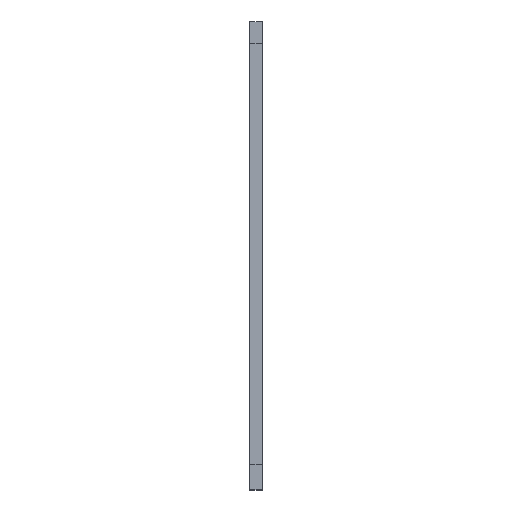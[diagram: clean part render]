
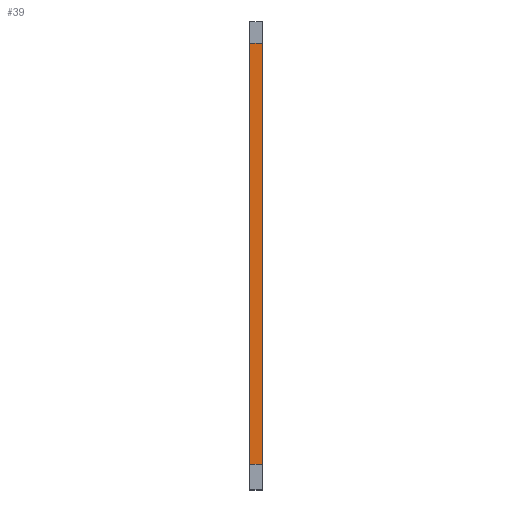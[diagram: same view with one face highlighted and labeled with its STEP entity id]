
A CAD part, left-side view. The second image highlights one B-rep face of the part: STEP entity #39.
In plain terms, the highlighted planar face has unit normal (-1, 0, 0).
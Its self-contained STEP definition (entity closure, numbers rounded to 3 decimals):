
#39=ADVANCED_FACE('',(#75),#1361,.T.);
#75=FACE_OUTER_BOUND('',#111,.T.);
#111=EDGE_LOOP('',(#176,#177,#178,#179));
#176=ORIENTED_EDGE('',*,*,#965,.T.);
#177=ORIENTED_EDGE('',*,*,#946,.F.);
#178=ORIENTED_EDGE('',*,*,#966,.T.);
#179=ORIENTED_EDGE('',*,*,#963,.F.);
#436=PCURVE('',#1354,#640);
#458=PCURVE('',#1360,#662);
#461=PCURVE('',#1361,#665);
#462=PCURVE('',#1361,#666);
#463=PCURVE('',#1361,#667);
#464=PCURVE('',#1361,#668);
#557=PCURVE('',#1372,#761);
#598=PCURVE('',#1373,#802);
#640=DEFINITIONAL_REPRESENTATION('',(#1052),#2445);
#662=DEFINITIONAL_REPRESENTATION('',(#1091),#2445);
#665=DEFINITIONAL_REPRESENTATION('',(#1096),#2445);
#666=DEFINITIONAL_REPRESENTATION('',(#1097),#2445);
#667=DEFINITIONAL_REPRESENTATION('',(#1099),#2445);
#668=DEFINITIONAL_REPRESENTATION('',(#1100),#2445);
#761=DEFINITIONAL_REPRESENTATION('',(#1222),#2445);
#802=DEFINITIONAL_REPRESENTATION('',(#1247),#2445);
#844=SURFACE_CURVE('',#1051,(#436,#462),.PCURVE_S1.);
#861=SURFACE_CURVE('',#1090,(#458,#464),.PCURVE_S1.);
#863=SURFACE_CURVE('',#1095,(#461,#557),.PCURVE_S1.);
#864=SURFACE_CURVE('',#1098,(#463,#598),.PCURVE_S1.);
#946=EDGE_CURVE('',#1273,#1270,#844,.T.);
#963=EDGE_CURVE('',#1284,#1285,#861,.T.);
#965=EDGE_CURVE('',#1284,#1270,#863,.T.);
#966=EDGE_CURVE('',#1273,#1285,#864,.T.);
#1051=B_SPLINE_CURVE_WITH_KNOTS('',1,(#1716,#1717),.UNSPECIFIED.,.F.,.F.,
(2,2),(-3.,0.),.UNSPECIFIED.);
#1052=B_SPLINE_CURVE_WITH_KNOTS('',1,(#1718,#1719),.UNSPECIFIED.,.F.,.F.,
(2,2),(-3.,0.),.UNSPECIFIED.);
#1090=B_SPLINE_CURVE_WITH_KNOTS('',1,(#1794,#1795),.UNSPECIFIED.,.F.,.F.,
(2,2),(0.,3.),.UNSPECIFIED.);
#1091=B_SPLINE_CURVE_WITH_KNOTS('',1,(#1796,#1797),.UNSPECIFIED.,.F.,.F.,
(2,2),(0.,3.),.UNSPECIFIED.);
#1095=B_SPLINE_CURVE_WITH_KNOTS('',1,(#1804,#1805),.UNSPECIFIED.,.F.,.F.,
(2,2),(461.,560.),.UNSPECIFIED.);
#1096=B_SPLINE_CURVE_WITH_KNOTS('',1,(#1806,#1807),.UNSPECIFIED.,.F.,.F.,
(2,2),(461.,560.),.UNSPECIFIED.);
#1097=B_SPLINE_CURVE_WITH_KNOTS('',1,(#1808,#1809),.UNSPECIFIED.,.F.,.F.,
(2,2),(-3.,0.),.UNSPECIFIED.);
#1098=B_SPLINE_CURVE_WITH_KNOTS('',1,(#1810,#1811),.UNSPECIFIED.,.F.,.F.,
(2,2),(-560.,-461.),.UNSPECIFIED.);
#1099=B_SPLINE_CURVE_WITH_KNOTS('',1,(#1812,#1813),.UNSPECIFIED.,.F.,.F.,
(2,2),(-560.,-461.),.UNSPECIFIED.);
#1100=B_SPLINE_CURVE_WITH_KNOTS('',1,(#1814,#1815),.UNSPECIFIED.,.F.,.F.,
(2,2),(0.,3.),.UNSPECIFIED.);
#1222=B_SPLINE_CURVE_WITH_KNOTS('',1,(#2190,#2191),.UNSPECIFIED.,.F.,.F.,
(2,2),(461.,560.),.UNSPECIFIED.);
#1247=B_SPLINE_CURVE_WITH_KNOTS('',1,(#2319,#2320),.UNSPECIFIED.,.F.,.F.,
(2,2),(-560.,-461.),.UNSPECIFIED.);
#1270=VERTEX_POINT('',#1636);
#1273=VERTEX_POINT('',#1639);
#1284=VERTEX_POINT('',#1650);
#1285=VERTEX_POINT('',#1651);
#1354=PLANE('',#1394);
#1360=PLANE('',#1400);
#1361=PLANE('',#1401);
#1372=PLANE('',#1412);
#1373=PLANE('',#1413);
#1394=AXIS2_PLACEMENT_3D('',#1440,#1417,$);
#1400=AXIS2_PLACEMENT_3D('',#1446,#1423,$);
#1401=AXIS2_PLACEMENT_3D('',#1447,#1424,$);
#1412=AXIS2_PLACEMENT_3D('',#1580,#1435,$);
#1413=AXIS2_PLACEMENT_3D('',#1581,#1436,$);
#1417=DIRECTION('',(0.,0.,1.));
#1423=DIRECTION('',(0.,0.,-1.));
#1424=DIRECTION('',(-1.,0.,0.));
#1435=DIRECTION('',(0.,-1.,0.));
#1436=DIRECTION('',(0.,1.,0.));
#1440=CARTESIAN_POINT('',(-815.,342.,139.));
#1446=CARTESIAN_POINT('',(-810.,342.,40.));
#1447=CARTESIAN_POINT('',(-815.,342.,40.));
#1580=CARTESIAN_POINT('',(-645.,342.,34.));
#1581=CARTESIAN_POINT('',(-645.,345.,34.));
#1636=CARTESIAN_POINT('',(-815.,342.,139.));
#1639=CARTESIAN_POINT('',(-815.,345.,139.));
#1650=CARTESIAN_POINT('',(-815.,342.,40.));
#1651=CARTESIAN_POINT('',(-815.,345.,40.));
#1716=CARTESIAN_POINT('',(-815.,345.,139.));
#1717=CARTESIAN_POINT('',(-815.,342.,139.));
#1718=CARTESIAN_POINT('',(0.,3.));
#1719=CARTESIAN_POINT('',(0.,0.));
#1794=CARTESIAN_POINT('',(-815.,342.,40.));
#1795=CARTESIAN_POINT('',(-815.,345.,40.));
#1796=CARTESIAN_POINT('',(461.,0.));
#1797=CARTESIAN_POINT('',(461.,3.));
#1804=CARTESIAN_POINT('',(-815.,342.,40.));
#1805=CARTESIAN_POINT('',(-815.,342.,139.));
#1806=CARTESIAN_POINT('',(461.,0.));
#1807=CARTESIAN_POINT('',(560.,0.));
#1808=CARTESIAN_POINT('',(560.,3.));
#1809=CARTESIAN_POINT('',(560.,0.));
#1810=CARTESIAN_POINT('',(-815.,345.,139.));
#1811=CARTESIAN_POINT('',(-815.,345.,40.));
#1812=CARTESIAN_POINT('',(560.,3.));
#1813=CARTESIAN_POINT('',(461.,3.));
#1814=CARTESIAN_POINT('',(461.,0.));
#1815=CARTESIAN_POINT('',(461.,3.));
#2190=CARTESIAN_POINT('',(-11.4,20.));
#2191=CARTESIAN_POINT('',(87.6,20.));
#2319=CARTESIAN_POINT('',(20.,87.6));
#2320=CARTESIAN_POINT('',(20.,-11.4));
#2445=(
GEOMETRIC_REPRESENTATION_CONTEXT(2)
PARAMETRIC_REPRESENTATION_CONTEXT()
REPRESENTATION_CONTEXT('pspace','')
);
